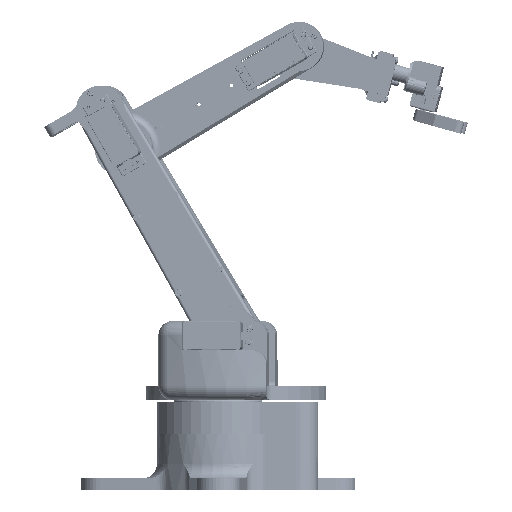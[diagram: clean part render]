
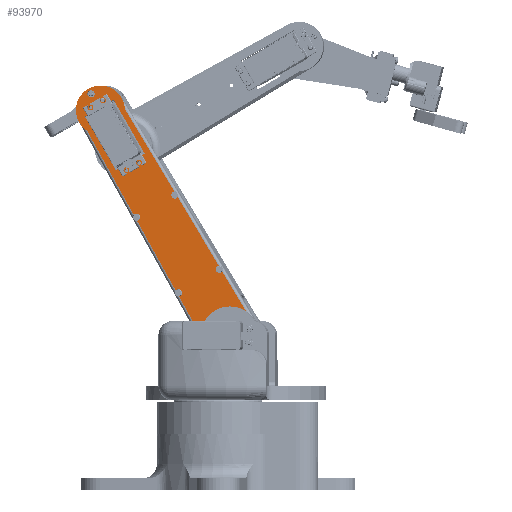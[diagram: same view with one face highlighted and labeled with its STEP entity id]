
A CAD part, left-side view. The second image highlights one B-rep face of the part: STEP entity #93970.
In plain terms, the highlighted planar face has unit normal (-0.998, 0.057, 0) as drawn and (0, 0, -1) by its records, which use the part's own axes.
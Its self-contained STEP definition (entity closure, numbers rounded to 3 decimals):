
#2349=FACE_BOUND('',#18087,.T.);
#2350=FACE_BOUND('',#18088,.T.);
#2351=FACE_BOUND('',#18089,.T.);
#2352=FACE_BOUND('',#18090,.T.);
#2353=FACE_BOUND('',#18091,.T.);
#2354=FACE_BOUND('',#18092,.T.);
#6111=CIRCLE('',#103390,2.5);
#6113=CIRCLE('',#103392,2.5);
#6114=CIRCLE('',#103394,17.);
#6115=CIRCLE('',#103395,2.5);
#6116=CIRCLE('',#103396,2.5);
#6117=CIRCLE('',#103397,20.);
#6118=CIRCLE('',#103398,2.5);
#6119=CIRCLE('',#103399,2.5);
#6120=CIRCLE('',#103400,2.5);
#6121=CIRCLE('',#103401,2.5);
#6122=CIRCLE('',#103402,2.5);
#6123=CIRCLE('',#103403,1.25);
#6124=CIRCLE('',#103404,1.25);
#6125=CIRCLE('',#103405,1.25);
#6126=CIRCLE('',#103406,1.3);
#12689=FACE_OUTER_BOUND('',#18086,.T.);
#18086=EDGE_LOOP('',(#71211,#71212,#71213,#71214,#71215,#71216,#71217,#71218,
#71219,#71220,#71221,#71222,#71223,#71224,#71225,#71226));
#18087=EDGE_LOOP('',(#71227));
#18088=EDGE_LOOP('',(#71228));
#18089=EDGE_LOOP('',(#71229));
#18090=EDGE_LOOP('',(#71230));
#18091=EDGE_LOOP('',(#71231));
#18092=EDGE_LOOP('',(#71232,#71233,#71234,#71235));
#24680=LINE('',#154907,#31593);
#24682=LINE('',#154943,#31595);
#24683=LINE('',#154963,#31596);
#24685=LINE('',#154980,#31598);
#24686=LINE('',#154986,#31599);
#24687=LINE('',#154991,#31600);
#24688=LINE('',#155004,#31601);
#24689=LINE('',#155006,#31602);
#24690=LINE('',#155008,#31603);
#24691=LINE('',#155009,#31604);
#31593=VECTOR('',#121304,10.);
#31595=VECTOR('',#121306,10.);
#31596=VECTOR('',#121307,10.);
#31598=VECTOR('',#121327,10.);
#31599=VECTOR('',#121332,10.);
#31600=VECTOR('',#121337,10.);
#31601=VECTOR('',#121348,10.);
#31602=VECTOR('',#121349,10.);
#31603=VECTOR('',#121350,10.);
#31604=VECTOR('',#121351,10.);
#40052=VERTEX_POINT('',#154886);
#40053=VERTEX_POINT('',#154887);
#40054=VERTEX_POINT('',#154906);
#40057=VERTEX_POINT('',#154931);
#40058=VERTEX_POINT('',#154942);
#40059=VERTEX_POINT('',#154944);
#40060=VERTEX_POINT('',#154965);
#40062=VERTEX_POINT('',#154972);
#40063=VERTEX_POINT('',#154974);
#40064=VERTEX_POINT('',#154977);
#40065=VERTEX_POINT('',#154979);
#40066=VERTEX_POINT('',#154981);
#40067=VERTEX_POINT('',#154983);
#40068=VERTEX_POINT('',#154985);
#40069=VERTEX_POINT('',#154987);
#40070=VERTEX_POINT('',#154989);
#40071=VERTEX_POINT('',#154992);
#40072=VERTEX_POINT('',#154994);
#40073=VERTEX_POINT('',#154996);
#40074=VERTEX_POINT('',#154998);
#40075=VERTEX_POINT('',#155000);
#40076=VERTEX_POINT('',#155002);
#40077=VERTEX_POINT('',#155003);
#40078=VERTEX_POINT('',#155005);
#40079=VERTEX_POINT('',#155007);
#51635=EDGE_CURVE('',#40053,#40054,#24680,.T.);
#51639=EDGE_CURVE('',#40057,#40058,#24682,.T.);
#51641=EDGE_CURVE('',#40059,#40052,#24683,.T.);
#51642=EDGE_CURVE('',#40060,#40052,#6111,.T.);
#51645=EDGE_CURVE('',#40053,#40060,#6113,.T.);
#51646=EDGE_CURVE('',#40054,#40062,#6114,.T.);
#51647=EDGE_CURVE('',#40059,#40063,#6115,.T.);
#51648=EDGE_CURVE('',#40063,#40058,#6116,.T.);
#51649=EDGE_CURVE('',#40057,#40064,#6117,.T.);
#51650=EDGE_CURVE('',#40065,#40064,#24685,.T.);
#51651=EDGE_CURVE('',#40065,#40066,#6118,.T.);
#51652=EDGE_CURVE('',#40066,#40067,#6119,.T.);
#51653=EDGE_CURVE('',#40068,#40067,#24686,.T.);
#51654=EDGE_CURVE('',#40068,#40069,#6120,.T.);
#51655=EDGE_CURVE('',#40069,#40070,#6121,.T.);
#51656=EDGE_CURVE('',#40062,#40070,#24687,.T.);
#51657=EDGE_CURVE('',#40071,#40071,#6122,.T.);
#51658=EDGE_CURVE('',#40072,#40072,#6123,.T.);
#51659=EDGE_CURVE('',#40073,#40073,#6124,.T.);
#51660=EDGE_CURVE('',#40074,#40074,#6125,.T.);
#51661=EDGE_CURVE('',#40075,#40075,#6126,.T.);
#51662=EDGE_CURVE('',#40076,#40077,#24688,.T.);
#51663=EDGE_CURVE('',#40077,#40078,#24689,.T.);
#51664=EDGE_CURVE('',#40078,#40079,#24690,.T.);
#51665=EDGE_CURVE('',#40079,#40076,#24691,.T.);
#71211=ORIENTED_EDGE('',*,*,#51646,.F.);
#71212=ORIENTED_EDGE('',*,*,#51635,.F.);
#71213=ORIENTED_EDGE('',*,*,#51645,.T.);
#71214=ORIENTED_EDGE('',*,*,#51642,.T.);
#71215=ORIENTED_EDGE('',*,*,#51641,.F.);
#71216=ORIENTED_EDGE('',*,*,#51647,.T.);
#71217=ORIENTED_EDGE('',*,*,#51648,.T.);
#71218=ORIENTED_EDGE('',*,*,#51639,.F.);
#71219=ORIENTED_EDGE('',*,*,#51649,.T.);
#71220=ORIENTED_EDGE('',*,*,#51650,.F.);
#71221=ORIENTED_EDGE('',*,*,#51651,.T.);
#71222=ORIENTED_EDGE('',*,*,#51652,.T.);
#71223=ORIENTED_EDGE('',*,*,#51653,.F.);
#71224=ORIENTED_EDGE('',*,*,#51654,.T.);
#71225=ORIENTED_EDGE('',*,*,#51655,.T.);
#71226=ORIENTED_EDGE('',*,*,#51656,.F.);
#71227=ORIENTED_EDGE('',*,*,#51657,.T.);
#71228=ORIENTED_EDGE('',*,*,#51658,.T.);
#71229=ORIENTED_EDGE('',*,*,#51659,.T.);
#71230=ORIENTED_EDGE('',*,*,#51660,.T.);
#71231=ORIENTED_EDGE('',*,*,#51661,.T.);
#71232=ORIENTED_EDGE('',*,*,#51662,.T.);
#71233=ORIENTED_EDGE('',*,*,#51663,.T.);
#71234=ORIENTED_EDGE('',*,*,#51664,.T.);
#71235=ORIENTED_EDGE('',*,*,#51665,.T.);
#89616=PLANE('',#103393);
#93970=ADVANCED_FACE('',(#12689,#2349,#2350,#2351,#2352,#2353,#2354),#89616,
 .F.);
#103390=AXIS2_PLACEMENT_3D('',#154966,#121310,#121311);
#103392=AXIS2_PLACEMENT_3D('',#154970,#121315,#121316);
#103393=AXIS2_PLACEMENT_3D('',#154971,#121317,#121318);
#103394=AXIS2_PLACEMENT_3D('',#154973,#121319,#121320);
#103395=AXIS2_PLACEMENT_3D('',#154975,#121321,#121322);
#103396=AXIS2_PLACEMENT_3D('',#154976,#121323,#121324);
#103397=AXIS2_PLACEMENT_3D('',#154978,#121325,#121326);
#103398=AXIS2_PLACEMENT_3D('',#154982,#121328,#121329);
#103399=AXIS2_PLACEMENT_3D('',#154984,#121330,#121331);
#103400=AXIS2_PLACEMENT_3D('',#154988,#121333,#121334);
#103401=AXIS2_PLACEMENT_3D('',#154990,#121335,#121336);
#103402=AXIS2_PLACEMENT_3D('',#154993,#121338,#121339);
#103403=AXIS2_PLACEMENT_3D('',#154995,#121340,#121341);
#103404=AXIS2_PLACEMENT_3D('',#154997,#121342,#121343);
#103405=AXIS2_PLACEMENT_3D('',#154999,#121344,#121345);
#103406=AXIS2_PLACEMENT_3D('',#155001,#121346,#121347);
#121304=DIRECTION('',(1.,0.017,0.));
#121306=DIRECTION('',(1.,0.017,0.));
#121307=DIRECTION('',(1.,0.017,0.));
#121310=DIRECTION('center_axis',(0.,0.,1.));
#121311=DIRECTION('ref_axis',(-1.,0.,0.));
#121315=DIRECTION('center_axis',(0.,0.,1.));
#121316=DIRECTION('ref_axis',(-1.,0.,0.));
#121317=DIRECTION('center_axis',(0.,0.,1.));
#121318=DIRECTION('ref_axis',(1.,0.,0.));
#121319=DIRECTION('center_axis',(0.,0.,1.));
#121320=DIRECTION('ref_axis',(1.,0.,0.));
#121321=DIRECTION('center_axis',(0.,0.,1.));
#121322=DIRECTION('ref_axis',(-1.,0.,0.));
#121323=DIRECTION('center_axis',(0.,0.,1.));
#121324=DIRECTION('ref_axis',(-1.,0.,0.));
#121325=DIRECTION('center_axis',(0.,0.,1.));
#121326=DIRECTION('ref_axis',(1.,0.,0.));
#121327=DIRECTION('',(-1.,0.017,0.));
#121328=DIRECTION('center_axis',(0.,0.,1.));
#121329=DIRECTION('ref_axis',(-1.,0.,0.));
#121330=DIRECTION('center_axis',(0.,0.,1.));
#121331=DIRECTION('ref_axis',(-1.,0.,0.));
#121332=DIRECTION('',(-1.,0.017,0.));
#121333=DIRECTION('center_axis',(0.,0.,1.));
#121334=DIRECTION('ref_axis',(-1.,0.,0.));
#121335=DIRECTION('center_axis',(0.,0.,1.));
#121336=DIRECTION('ref_axis',(-1.,0.,0.));
#121337=DIRECTION('',(-1.,0.017,0.));
#121338=DIRECTION('center_axis',(0.,0.,1.));
#121339=DIRECTION('ref_axis',(-1.,0.,0.));
#121340=DIRECTION('center_axis',(0.,0.,1.));
#121341=DIRECTION('ref_axis',(1.,0.,0.));
#121342=DIRECTION('center_axis',(0.,0.,1.));
#121343=DIRECTION('ref_axis',(1.,0.,0.));
#121344=DIRECTION('center_axis',(0.,0.,1.));
#121345=DIRECTION('ref_axis',(1.,0.,0.));
#121346=DIRECTION('center_axis',(0.,0.,1.));
#121347=DIRECTION('ref_axis',(1.,0.,0.));
#121348=DIRECTION('',(1.,0.,0.));
#121349=DIRECTION('',(0.,1.,0.));
#121350=DIRECTION('',(-1.,0.,0.));
#121351=DIRECTION('',(0.,-1.,0.));
#154886=CARTESIAN_POINT('',(101.034,-16.317,5.));
#154887=CARTESIAN_POINT('',(105.616,-16.241,5.));
#154906=CARTESIAN_POINT('',(172.247,-15.129,5.));
#154907=CARTESIAN_POINT('',(44.538,-17.26,5.));
#154931=CARTESIAN_POINT('',(9.017,-17.852,5.));
#154942=CARTESIAN_POINT('',(41.043,-17.318,5.));
#154943=CARTESIAN_POINT('',(44.538,-17.26,5.));
#154944=CARTESIAN_POINT('',(45.645,-17.241,5.));
#154963=CARTESIAN_POINT('',(44.538,-17.26,5.));
#154965=CARTESIAN_POINT('',(105.808,-15.279,5.));
#154966=CARTESIAN_POINT('Origin',(103.308,-15.279,5.));
#154970=CARTESIAN_POINT('Origin',(103.308,-15.279,5.));
#154971=CARTESIAN_POINT('Origin',(88.5,0.,5.));
#154972=CARTESIAN_POINT('',(172.247,15.129,5.));
#154973=CARTESIAN_POINT('Origin',(180.,0.,5.));
#154974=CARTESIAN_POINT('',(45.828,-16.304,5.));
#154975=CARTESIAN_POINT('Origin',(43.328,-16.304,5.));
#154976=CARTESIAN_POINT('Origin',(43.328,-16.304,5.));
#154977=CARTESIAN_POINT('',(9.017,17.852,5.));
#154978=CARTESIAN_POINT('Origin',(0.,0.,5.));
#154979=CARTESIAN_POINT('',(41.043,17.318,5.));
#154980=CARTESIAN_POINT('',(134.371,15.761,5.));
#154981=CARTESIAN_POINT('',(45.828,16.304,5.));
#154982=CARTESIAN_POINT('Origin',(43.328,16.304,5.));
#154983=CARTESIAN_POINT('',(45.645,17.241,5.));
#154984=CARTESIAN_POINT('Origin',(43.328,16.304,5.));
#154985=CARTESIAN_POINT('',(101.034,16.317,5.));
#154986=CARTESIAN_POINT('',(134.371,15.761,5.));
#154987=CARTESIAN_POINT('',(105.819,15.303,5.));
#154988=CARTESIAN_POINT('Origin',(103.319,15.303,5.));
#154989=CARTESIAN_POINT('',(105.637,16.24,5.));
#154990=CARTESIAN_POINT('Origin',(103.319,15.303,5.));
#154991=CARTESIAN_POINT('',(134.371,15.761,5.));
#154992=CARTESIAN_POINT('',(195.5,0.,5.));
#154993=CARTESIAN_POINT('Origin',(193.,0.,5.));
#154994=CARTESIAN_POINT('',(133.65,-5.,5.));
#154995=CARTESIAN_POINT('Origin',(134.9,-5.,5.));
#154996=CARTESIAN_POINT('',(183.75,5.,5.));
#154997=CARTESIAN_POINT('Origin',(185.,5.,5.));
#154998=CARTESIAN_POINT('',(133.65,5.,5.));
#154999=CARTESIAN_POINT('Origin',(134.9,5.,5.));
#155000=CARTESIAN_POINT('',(183.7,-5.,5.));
#155001=CARTESIAN_POINT('Origin',(185.,-5.,5.));
#155002=CARTESIAN_POINT('',(138.613,-11.5,5.));
#155003=CARTESIAN_POINT('',(181.613,-11.5,5.));
#155004=CARTESIAN_POINT('',(135.056,-11.5,5.));
#155005=CARTESIAN_POINT('',(181.613,11.5,5.));
#155006=CARTESIAN_POINT('',(181.613,5.75,5.));
#155007=CARTESIAN_POINT('',(138.613,11.5,5.));
#155008=CARTESIAN_POINT('',(113.556,11.5,5.));
#155009=CARTESIAN_POINT('',(138.613,-5.75,5.));
